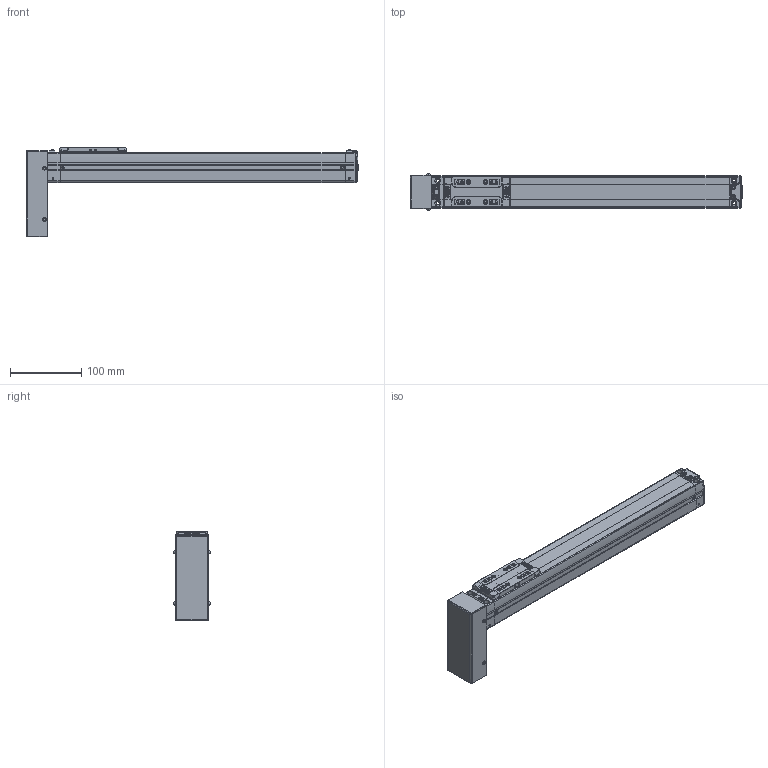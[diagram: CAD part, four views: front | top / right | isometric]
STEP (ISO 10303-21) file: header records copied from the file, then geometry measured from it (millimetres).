
FILE_DESCRIPTION(('STEP AP214'),'1');
FILE_NAME('Z:/Web/3D/SAN45/2013.ver/STP/SAN45ㅁㅁ-300PB.stp','2013-05-15T11:45:43',(' '),(' '),'Spatial InterOp 3D',' ',' ');
FILE_SCHEMA(('automotive_design'));
Length unit declared in the file: millimetre
Products named in the file (28): BODY-SAN45; REAR-SAN45; RRCV-SAN45; BHCS M3 x 6L; BHCS M3 X 6L; FRONT-SAN45; SHAFT; RN8 x 0.75; SSFX-SAN45; SLIDE-SAN45; SLCV-IM45; FHCS M3 x 6L; BTCV-SAN45
Bounding box: 466.15 x 51.13 x 126 mm (x, y, z)
Volume: 958772.8 mm3; surface area: 152133.9 mm2
Topology: 28 solids, 28 shells, 1709 faces, 4443 edges, 2867 vertices
Faces by surface type: plane 887, cylinder 598, cone 126, bspline 40, sphere 40, torus 12, extrusion 6
Entity records: 70418 total; most frequent: CARTESIAN_POINT 13404, DIRECTION 9233, ORIENTED_EDGE 8786, EDGE_CURVE 4393, AXIS2_PLACEMENT_3D 3251, VERTEX_POINT 2867, VECTOR 2731, LINE 2725
